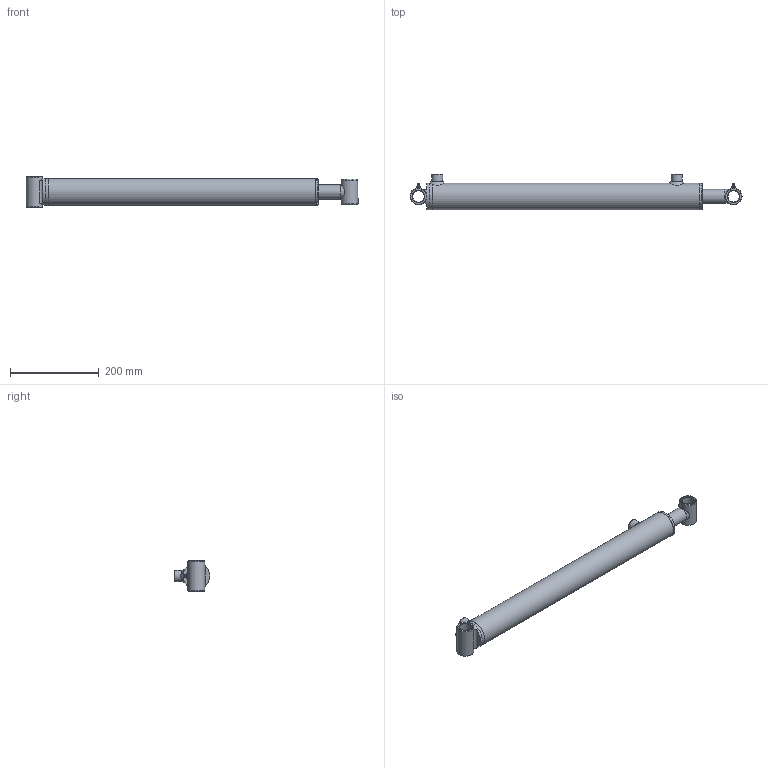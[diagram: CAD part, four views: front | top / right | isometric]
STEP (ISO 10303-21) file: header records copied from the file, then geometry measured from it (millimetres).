
FILE_DESCRIPTION(/* description */ (''),/* implementation_level */ '2;1');
FILE_NAME(/* name */ 'C:\01 - Philip\00 - Philip Rivard\01 - Contracts\Eagle Hydraulic Components\00 - 3D Cylinder\01 - Standard\HBU\HBU20XX\STEP\HBU2020.stp',/* time_stamp */ '2015-05-19T20:05:41-04:00',/* author */ ('Philip'),/* organization */ (''),/* preprocessor_version */ 'ST-DEVELOPER v16.1',/* originating_system */ 'Autodesk Inventor 2016',/* authorisation */ '');
FILE_SCHEMA (('AUTOMOTIVE_DESIGN { 1 0 10303 214 3 1 1 }'));
Length unit declared in the file: inch
Products named in the file (12): Tube_Welding_Welds; ECP-20-HBU; Tube; Straight_Port; Gland; Grease Fitting 1-8; Tube_Welding; Rod_Welding_Welds; Rod; Bushing; Rod_Welding; Cylinder_Assembly
Assembly tree (13 placements, depth 3):
  Cylinder_Assembly
    Tube_Welding
      Tube_Welding_Welds
      ECP-20-HBU
      Tube
      Straight_Port  x2
      Gland
      Grease Fitting 1-8
    Rod_Welding
      Rod_Welding_Welds
      Rod
      Bushing
      Grease Fitting 1-8
Bounding box: 749.3 x 80.33 x 69.8 mm (x, y, z)
Volume: 1187150.2 mm3; surface area: 343664.3 mm2
Topology: 12 solids, 12 shells, 197 faces, 428 edges, 259 vertices
Faces by surface type: cone 65, plane 55, cylinder 50, torus 15, bspline 10, sphere 2
Full cylindrical faces by diameter (mm): 4 x2, 5 x1, 7.5 x2, 8 x2, 10 x2, 12.751 x2, 22 x1, 25 x4, 25.4 x2, 25.65 x2, 26 x1, 26.25 x1, 31.75 x2, 38.1 x2, 43 x1, 44.45 x1, 50.546 x1, 50.75 x1, 50.8 x1, 51 x1, 55 x4, 60.3 x1, 60.325 x1
Entity records: 6072 total; most frequent: CARTESIAN_POINT 2882, DIRECTION 631, ORIENTED_EDGE 486, AXIS2_PLACEMENT_3D 293, EDGE_LOOP 270, EDGE_CURVE 243, VERTEX_POINT 191, ADVANCED_FACE 157
